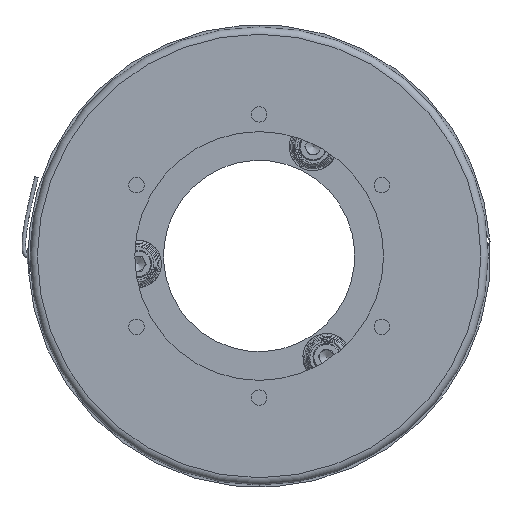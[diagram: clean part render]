
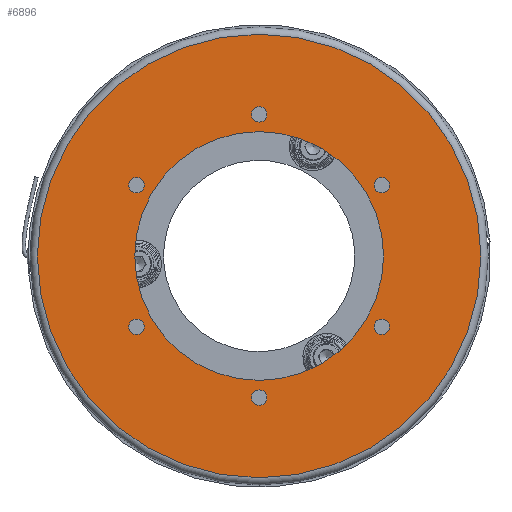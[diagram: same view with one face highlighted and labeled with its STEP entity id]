
A CAD part, left-side view. The second image highlights one B-rep face of the part: STEP entity #6896.
In plain terms, the highlighted planar face has unit normal (-1, 0, 0).
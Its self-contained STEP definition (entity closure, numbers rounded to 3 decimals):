
#134=FACE_BOUND('',#2248,.T.);
#135=FACE_BOUND('',#2249,.T.);
#136=FACE_BOUND('',#2250,.T.);
#137=FACE_BOUND('',#2251,.T.);
#138=FACE_BOUND('',#2252,.T.);
#139=FACE_BOUND('',#2253,.T.);
#140=FACE_BOUND('',#2254,.T.);
#1377=PLANE('',#7748);
#1763=FACE_OUTER_BOUND('',#2247,.T.);
#2247=EDGE_LOOP('',(#5986));
#2248=EDGE_LOOP('',(#5987));
#2249=EDGE_LOOP('',(#5988));
#2250=EDGE_LOOP('',(#5989));
#2251=EDGE_LOOP('',(#5990));
#2252=EDGE_LOOP('',(#5991));
#2253=EDGE_LOOP('',(#5992));
#2254=EDGE_LOOP('',(#5993));
#2746=CIRCLE('',#7749,121.75);
#2747=CIRCLE('',#7750,4.25);
#2748=CIRCLE('',#7751,4.25);
#2749=CIRCLE('',#7752,4.25);
#2750=CIRCLE('',#7753,4.25);
#2751=CIRCLE('',#7754,4.25);
#2752=CIRCLE('',#7755,4.25);
#2753=CIRCLE('',#7756,68.3);
#3340=VERTEX_POINT('',#13701);
#3341=VERTEX_POINT('',#13703);
#3342=VERTEX_POINT('',#13705);
#3343=VERTEX_POINT('',#13707);
#3344=VERTEX_POINT('',#13709);
#3345=VERTEX_POINT('',#13711);
#3346=VERTEX_POINT('',#13713);
#3347=VERTEX_POINT('',#13715);
#4234=EDGE_CURVE('',#3340,#3340,#2746,.T.);
#4235=EDGE_CURVE('',#3341,#3341,#2747,.T.);
#4236=EDGE_CURVE('',#3342,#3342,#2748,.T.);
#4237=EDGE_CURVE('',#3343,#3343,#2749,.T.);
#4238=EDGE_CURVE('',#3344,#3344,#2750,.T.);
#4239=EDGE_CURVE('',#3345,#3345,#2751,.T.);
#4240=EDGE_CURVE('',#3346,#3346,#2752,.T.);
#4241=EDGE_CURVE('',#3347,#3347,#2753,.T.);
#5986=ORIENTED_EDGE('',*,*,#4234,.F.);
#5987=ORIENTED_EDGE('',*,*,#4235,.T.);
#5988=ORIENTED_EDGE('',*,*,#4236,.T.);
#5989=ORIENTED_EDGE('',*,*,#4237,.T.);
#5990=ORIENTED_EDGE('',*,*,#4238,.T.);
#5991=ORIENTED_EDGE('',*,*,#4239,.T.);
#5992=ORIENTED_EDGE('',*,*,#4240,.T.);
#5993=ORIENTED_EDGE('',*,*,#4241,.T.);
#6896=ADVANCED_FACE('',(#1763,#134,#135,#136,#137,#138,#139,#140),#1377,
 .T.);
#7748=AXIS2_PLACEMENT_3D('',#13700,#9782,#9783);
#7749=AXIS2_PLACEMENT_3D('',#13702,#9784,#9785);
#7750=AXIS2_PLACEMENT_3D('',#13704,#9786,#9787);
#7751=AXIS2_PLACEMENT_3D('',#13706,#9788,#9789);
#7752=AXIS2_PLACEMENT_3D('',#13708,#9790,#9791);
#7753=AXIS2_PLACEMENT_3D('',#13710,#9792,#9793);
#7754=AXIS2_PLACEMENT_3D('',#13712,#9794,#9795);
#7755=AXIS2_PLACEMENT_3D('',#13714,#9796,#9797);
#7756=AXIS2_PLACEMENT_3D('',#13716,#9798,#9799);
#9782=DIRECTION('center_axis',(-1.,0.,
0.));
#9783=DIRECTION('ref_axis',(0.,0.,1.));
#9784=DIRECTION('center_axis',(1.,0.,0.));
#9785=DIRECTION('ref_axis',(0.,1.,0.));
#9786=DIRECTION('center_axis',(1.,0.,0.));
#9787=DIRECTION('ref_axis',(0.,0.,1.));
#9788=DIRECTION('center_axis',(1.,0.,0.));
#9789=DIRECTION('ref_axis',(0.,0.,1.));
#9790=DIRECTION('center_axis',(1.,0.,0.));
#9791=DIRECTION('ref_axis',(0.,0.,1.));
#9792=DIRECTION('center_axis',(1.,0.,0.));
#9793=DIRECTION('ref_axis',(0.,0.,1.));
#9794=DIRECTION('center_axis',(1.,0.,0.));
#9795=DIRECTION('ref_axis',(0.,0.,1.));
#9796=DIRECTION('center_axis',(1.,0.,0.));
#9797=DIRECTION('ref_axis',(0.,0.,1.));
#9798=DIRECTION('center_axis',(1.,0.,0.));
#9799=DIRECTION('ref_axis',(0.,1.,0.));
#13700=CARTESIAN_POINT('Origin',(-38.,95.025,0.));
#13701=CARTESIAN_POINT('',(-38.,0.,121.75));
#13702=CARTESIAN_POINT('Origin',(-38.,0.,
0.));
#13703=CARTESIAN_POINT('',(-38.,67.333,-43.125));
#13704=CARTESIAN_POINT('Origin',(-38.,67.333,-38.875));
#13705=CARTESIAN_POINT('',(-38.,67.333,34.625));
#13706=CARTESIAN_POINT('Origin',(-38.,67.333,38.875));
#13707=CARTESIAN_POINT('',(-38.,0.,73.5));
#13708=CARTESIAN_POINT('Origin',(-38.,0.,
77.75));
#13709=CARTESIAN_POINT('',(-38.,-67.334,34.625));
#13710=CARTESIAN_POINT('Origin',(-38.,-67.334,38.875));
#13711=CARTESIAN_POINT('',(-38.,-67.334,-43.125));
#13712=CARTESIAN_POINT('Origin',(-38.,-67.334,-38.875));
#13713=CARTESIAN_POINT('',(-38.,0.,-82.));
#13714=CARTESIAN_POINT('Origin',(-38.,0.,
-77.75));
#13715=CARTESIAN_POINT('',(-38.,-68.3,0.));
#13716=CARTESIAN_POINT('Origin',(-38.,0.,
0.));
